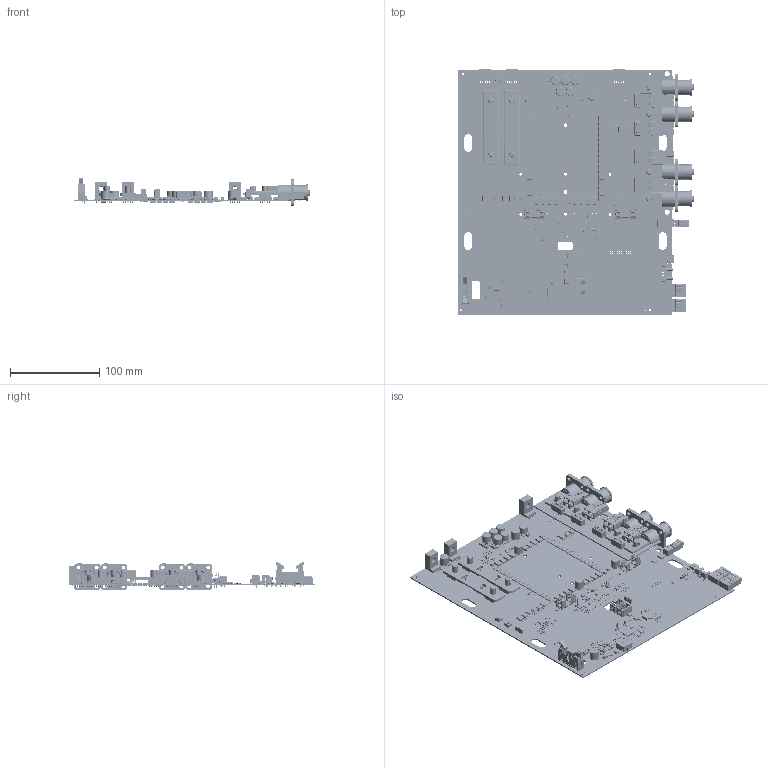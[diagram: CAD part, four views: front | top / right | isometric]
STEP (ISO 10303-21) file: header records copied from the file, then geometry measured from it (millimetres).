
FILE_DESCRIPTION(('KiCad electronic assembly'),'2;1');
FILE_NAME('smartPro.step','2026-01-24T20:22:08',('Pcbnew'),('Kicad'), 'Open CASCADE STEP processor 7.9','KiCad to STEP converter','Unknown' );
FILE_SCHEMA(('AUTOMOTIVE_DESIGN { 1 0 10303 214 1 1 1 1 }'));
Length unit declared in the file: millimetre
Products named in the file (80): smartPro 1; SOT-23-5; D_SMC; R_0603_1608Metric; C_0603_1608Metric; PinHeader_2x05_P1.27mm_Vertical_SMD; C_1210_3225Metric; C_1206_3216Metric; CP_Radial_D10.0mm_P5.00mm; PinHeader_1x02_P2.54mm_Vertical; 61201022021; 10; 6120xx22x21_LEVIER_COURT; 6120xx21621_PIN; TO-252-2; smartPro 1.29.1; SOIC-8_5.3x5.3mm_P1.27mm; LED_0603_1608Metric; PQFN-8-EP_6x5mm_P1.27mm_Generic; 7461098; SOT-23; R_2512_6332Metric; WSBS8518-35_500ÂµO; wsbs 8518 500 micro...; PIN-1001 FOR WSBS 100 E; 430152043826 (rev1); c3d-c-users-nlang-nextcloud-desktop-amphenol-projekte-website-content-p
roduct-documents-data-surlok-c3d-slpirbbpsr4; SOT-353_SC-70-5; D_SMB; 74622106; SW_Tactile_SPST_Angled_PTS645Vx83-2LFS; HSOP-8-1EP_3.9x4.9mm_P1.27mm_EP2.41x3.1mm; ws-sltv_450301014042 (rev1); cover; slide; CP_Elec_10x10; SOT-23-8; Download_STP_WE-LQFS-4818 (rev1); 4818_74406042_Housing; 4818_74406042 ...
Assembly tree (633 placements, depth 3):
  smartPro 1
    SOT-23-5  x10
    D_SMC  x33
    R_0603_1608Metric  x205
    C_0603_1608Metric  x91
    PinHeader_2x05_P1.27mm_Vertical_SMD
    C_1210_3225Metric  x33
    C_1206_3216Metric  x13
    CP_Radial_D10.0mm_P5.00mm  x6
    PinHeader_1x02_P2.54mm_Vertical  x3
    61201022021
      10
      6120xx22x21_LEVIER_COURT  x2
      6120xx21621_PIN  x10
    TO-252-2  x13
      smartPro 1.29.1
    SOIC-8_5.3x5.3mm_P1.27mm
    LED_0603_1608Metric  x16
    PQFN-8-EP_6x5mm_P1.27mm_Generic  x65
    7461098  x8
    SOT-23  x14
    R_2512_6332Metric  x3
    WSBS8518-35_500ÂµO  x2
      wsbs 8518 500 micro...
      PIN-1001 FOR WSBS 100 E
    430152043826 (rev1)  x2
    c3d-c-users-nlang-nextcloud-desktop-amphenol-projekte-website-content-p
roduct-documents-data-surlok-c3d-slpirbbpsr4  x4
    SOT-353_SC-70-5  x2
    D_SMB  x2
    74622106  x3
    SW_Tactile_SPST_Angled_PTS645Vx83-2LFS  x2
    HSOP-8-1EP_3.9x4.9mm_P1.27mm_EP2.41x3.1mm  x2
    ws-sltv_450301014042 (rev1)  x2
      cover
      slide
    CP_Elec_10x10  x6
    SOT-23-8  x2
    Download_STP_WE-LQFS-4818 (rev1)
      4818_74406042_Housing
      4818_74406042
      4818_74406042
      4818_74406042_Pads  x2
      Glue L
      Glue R
    PhoenixContact_MC_1,5_2-G-3.5_1x02_P3.50mm_Horizontal
    L_0805_2012Metric
    SOIC-8_3.9x4.9mm_P1.27mm  x2
    Download_STEP_691304100002 (rev1)
      691304100002
      691304100002_Bas
      6913041000xx_Levier  x2
      6913041000xx_Pin  x2
      6913041000xx_Lamelle  x2
    CMI-1265-88-SMT-TR
    Crystal_SMD_0603-4Pin_6.0x3.5mm
    USB_C_Receptacle_GCT_USB4105-xx-A_16P_TopMnt_Horizontal
    IDC-Header_2x03_P2.54mm_Vertical  x2
    QFN-20-1EP_3x4mm_P0.5mm_EP1.65x2.65mm
    si_halter0031.8221  x2
    209_AddOn_PowerPole
Bounding box: 263.75 x 275.04 x 32.09 mm (x, y, z)
Volume: 211380.1 mm3; surface area: 278887.7 mm2
Topology: 816 solids, 830 shells, 37595 faces, 97031 edges, 61922 vertices
Faces by surface type: plane 27848, cylinder 8072, bspline 1129, cone 270, torus 186, extrusion 36, revolution 30, sphere 24
Full cylindrical faces by diameter (mm): 0.1 x14, 0.155 x2, 0.3 x30, 0.5 x4, 0.6 x38, 0.65 x2, 0.7 x17, 0.8 x14, 0.99 x4, 1 x105, 1.2 x42, 1.3 x4, 1.4 x2, 1.45 x275, 1.6 x4, 1.9 x1, 2.2 x4, 2.35 x2, 2.5 x16, 3.14 x2, 3.2 x6, 3.5 x4, 4.3 x2, 4.57 x4, 4.917 x3, 6 x20, 6.4 x4, 10 x12
Entity records: 349177 total; most frequent: CARTESIAN_POINT 58646, ORIENTED_EDGE 49700, DIRECTION 48091, EDGE_CURVE 24851, VECTOR 19034, LINE 19008, VERTEX_POINT 15914, AXIS2_PLACEMENT_3D 14526
